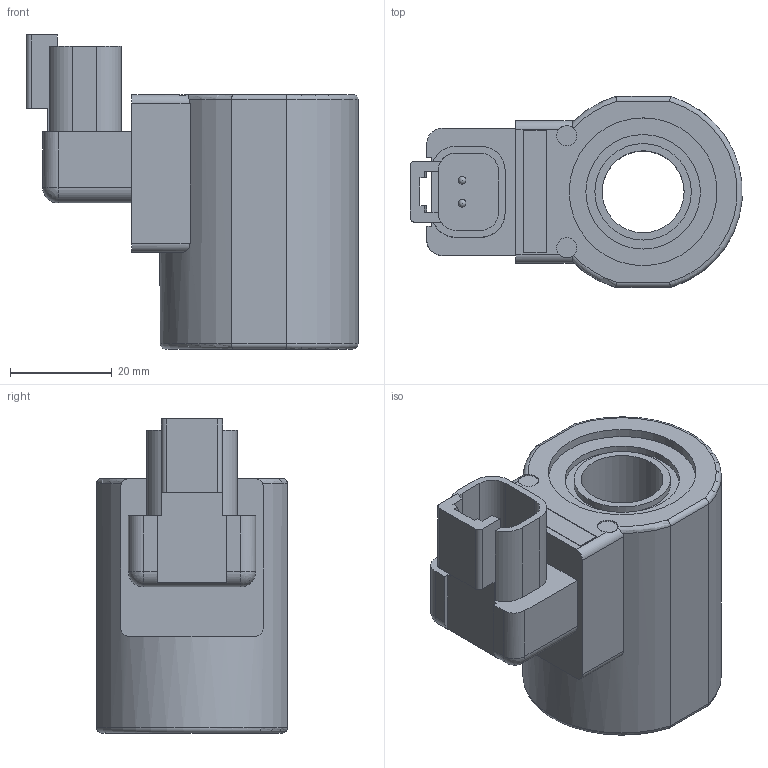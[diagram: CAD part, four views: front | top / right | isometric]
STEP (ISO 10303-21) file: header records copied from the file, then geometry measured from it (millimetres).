
FILE_DESCRIPTION((''),'2;1');
FILE_NAME('Q:\Delta CADD Insertion Codes\3D Solid models\Coils\STEP\LID.stp','2012-06-04T10:05:15',('Dan'),(''),'Autodesk Inventor 2012','Autodesk Inventor 2012','');
FILE_SCHEMA(('AUTOMOTIVE_DESIGN { 1 0 10303 214 1 1 1 1 }'));
Length unit declared in the file: inch
Products named in the file (1): Part20
Bounding box: 65.23 x 37.5 x 61.7 mm (x, y, z)
Volume: 60954.7 mm3; surface area: 15402.4 mm2
Topology: 1 solids, 1 shells, 101 faces, 268 edges, 174 vertices
Faces by surface type: plane 56, cylinder 36, torus 5, sphere 4
Full cylindrical faces by diameter (mm): 1.5 x2, 4 x2, 16.104 x1, 18.948 x2, 22.504 x2, 29.03 x2
Entity records: 3159 total; most frequent: CARTESIAN_POINT 708, DIRECTION 501, ORIENTED_EDGE 488, EDGE_CURVE 244, AXIS2_PLACEMENT_3D 173, VERTEX_POINT 164, VECTOR 155, LINE 155
